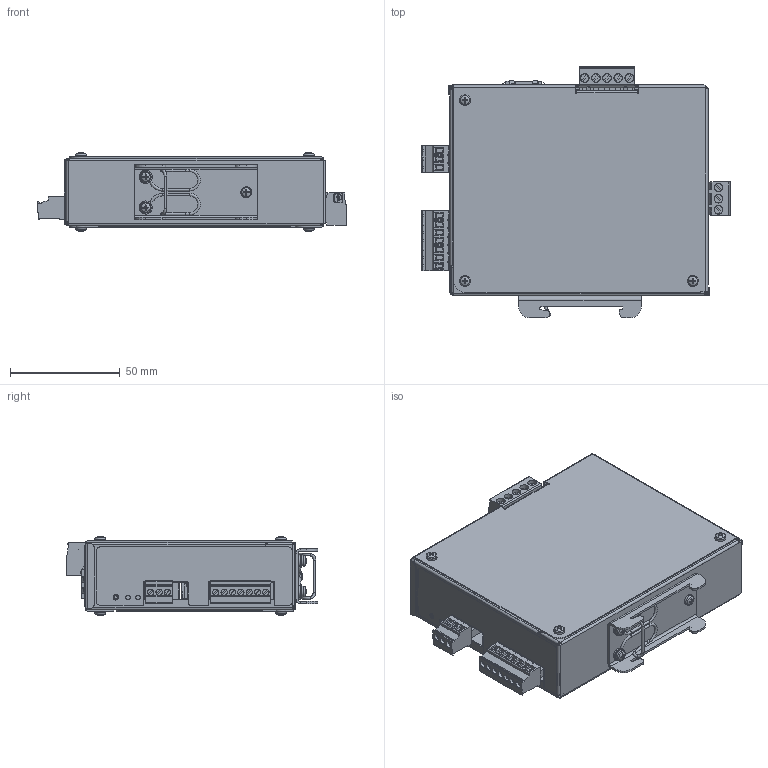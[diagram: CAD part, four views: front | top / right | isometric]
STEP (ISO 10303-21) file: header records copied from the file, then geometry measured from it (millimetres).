
FILE_DESCRIPTION(/* description */ (''),/* implementation_level */ '2;1');
FILE_NAME(/* name */ 'C:\Users\alves\OneDrive - ALFA INSTRUMENTOS ELETRONICOS LTDA\Área de Trabalho\ALVES\MARKETING\0650CX - TRANSMISSOR DE PESAGEM MOD. 2711-D.stp',/* time_stamp */ '2023-10-18T10:38:32-03:00',/* author */ ('alves'),/* organization */ (''),/* preprocessor_version */ 'ST-DEVELOPER v18.1',/* originating_system */ 'Autodesk Inventor 2022',/* authorisation */ '');
FILE_SCHEMA (('AUTOMOTIVE_DESIGN { 1 0 10303 214 3 1 1 }'));
Products named in the file (1): 0650CX - TRANSMISSOR DE PESAGEM MOD. 2711-D
Bounding box: 141.01 x 114.82 x 36.16 mm (x, y, z)
Volume: 12929.4 mm3; surface area: 91913.5 mm2
Topology: 7 solids, 802 shells, 3628 faces, 11348 edges, 8730 vertices
Faces by surface type: plane 2362, cylinder 675, bspline 331, cone 123, torus 98, sphere 39
Full cylindrical faces by diameter (mm): 0.434 x1, 0.457 x2, 0.6 x6, 0.609 x2, 0.8 x4, 1.2 x3, 1.4 x7, 1.5 x1, 1.6 x8, 2 x2, 2.256 x10, 2.5 x17, 2.7 x2, 2.8 x14, 2.9 x10, 3 x9, 3.013 x3, 3.2 x10, 3.783 x8, 4 x8, 6 x2
Entity records: 139707 total; most frequent: CARTESIAN_POINT 35437, DIRECTION 20420, ORIENTED_EDGE 18660, EDGE_CURVE 11314, VERTEX_POINT 8742, LINE 7760, VECTOR 7760, AXIS2_PLACEMENT_3D 6330
